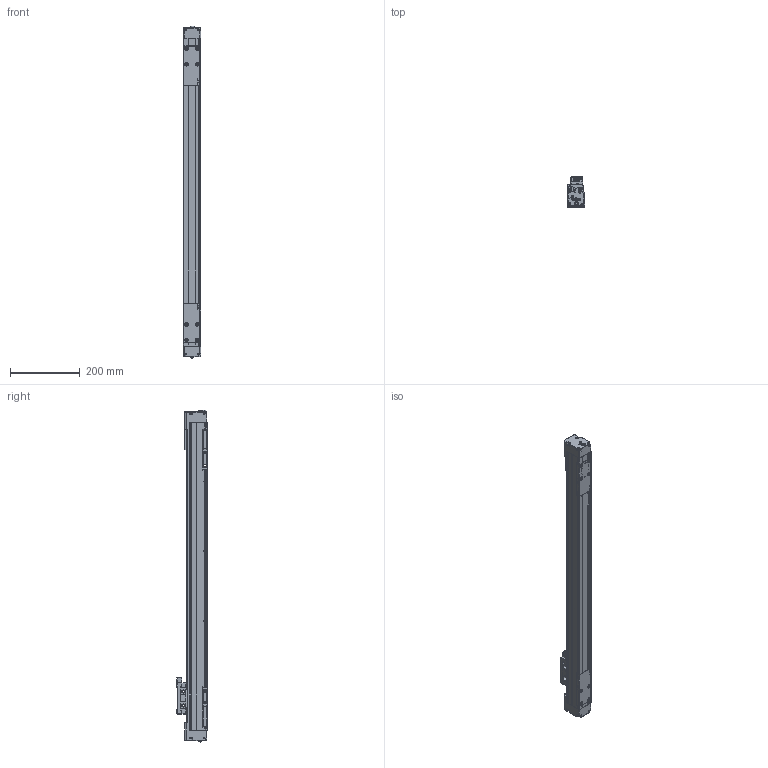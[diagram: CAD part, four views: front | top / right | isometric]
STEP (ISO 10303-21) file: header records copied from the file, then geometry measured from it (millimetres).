
FILE_DESCRIPTION(('Creo Elements/Direct Modeling STEP Export'),'2;1');
FILE_NAME('Regla L-6.stp','2011-10-03T 9:19:12',(''),(''),'Creo Elements/Direct Modeling STEP processor for AP214 (Solid Model)','Creo Elements/Direct Modeling 17.0C 05-Feb-2011 (C) Parametric Technology GmbH','');
FILE_SCHEMA(('AUTOMOTIVE_DESIGN { 1 0 10303 214 1 1 1 1 }'));
Length unit declared in the file: millimetre
Products named in the file (3): L-6_CABEZA; L-6_PERFIL; L-6
Assembly tree (2 placements, depth 2):
  L-6
    L-6_PERFIL
    L-6_CABEZA
Bounding box: 50 x 86.45 x 949.25 mm (x, y, z)
Volume: 2467098.4 mm3; surface area: 343462 mm2
Topology: 3 solids, 21 shells, 2082 faces, 5825 edges, 3826 vertices
Faces by surface type: plane 964, cylinder 899, cone 114, torus 78, sphere 18, bspline 9
Entity records: 73822 total; most frequent: CARTESIAN_POINT 19486, ORIENTED_EDGE 11618, DIRECTION 10151, EDGE_CURVE 5809, VERTEX_POINT 3824, AXIS2_PLACEMENT_3D 3436, VECTOR 3279, LINE 3279
